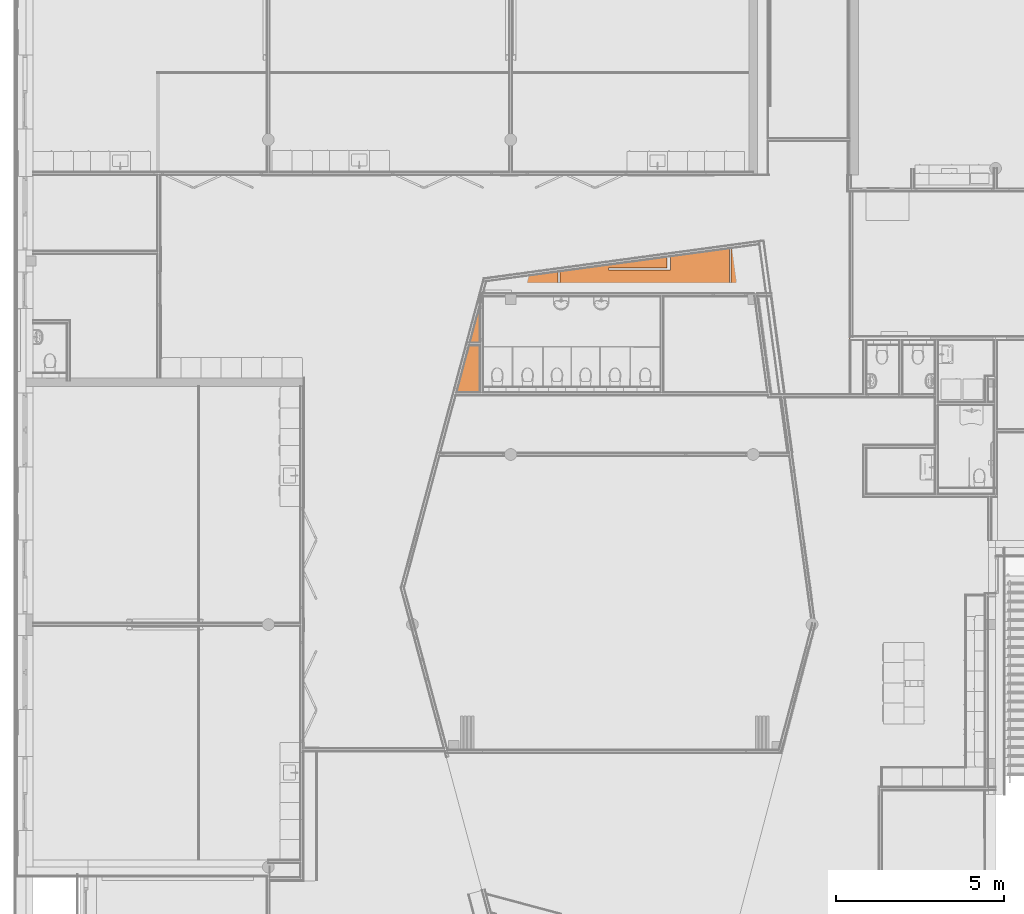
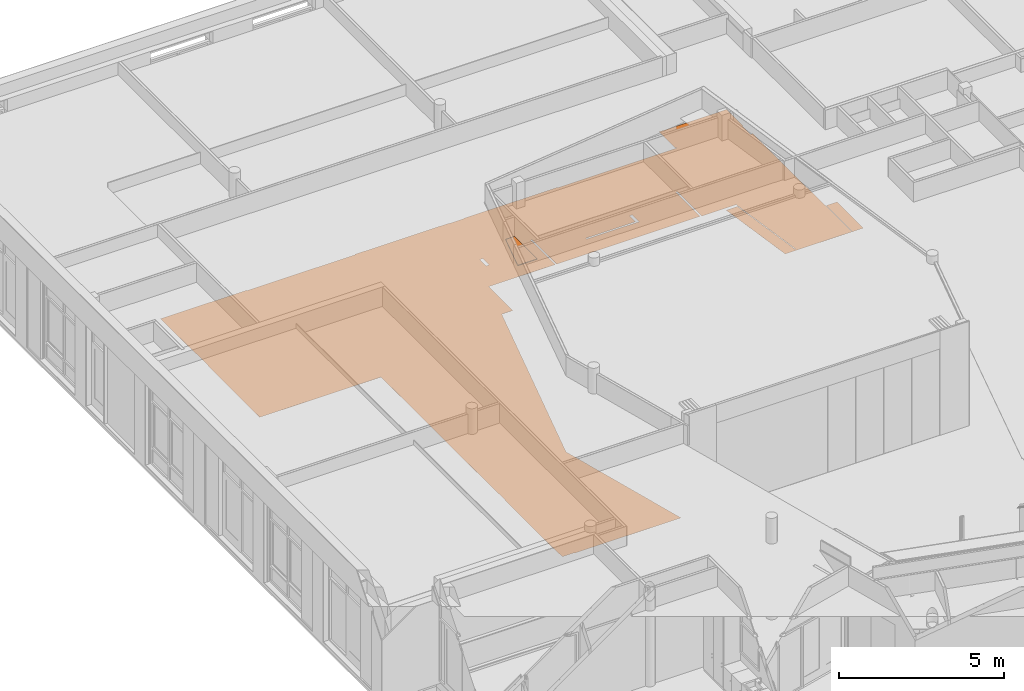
# One storey, part 131 of 167: 2 proxies.
"""IFC2X3 building model written with IfcOpenShell, lengths in millimetres."""

import ifcopenshell
import ifcopenshell.guid

model = None  # the IFC model being written
_history = None  # IfcOwnerHistory: only IFC2X3 demands one
_inside = {}  # id of a spatial element -> (the spatial element, [elements in it])
_under = {}  # id of a project, library or spatial element -> (it, [spatial elements below it])
_declared = {}  # id of a project -> (the project, [libraries it declares])
_typed = {}  # id of a type object -> (the type object, [elements of that type])
_made_of = {}  # id of a material, layer set ... -> (it, [elements and type objects made of it])


def new_model(schema):
    """Start an empty IFC model of exactly this schema.

    Asked for "IFC4X3", IfcOpenShell would pick the latest addendum, in which some entities
    have other attributes; the version numbers below select the first issue.
    IFC2X3 requires an IfcOwnerHistory on every rooted entity: one is made here for all.
    """
    global model, _history
    if schema == "IFC4X3":
        model = ifcopenshell.file(schema_version=(4, 3, 0, 0))
    else:
        model = ifcopenshell.file(schema=schema)
    _inside.clear()
    _under.clear()
    _declared.clear()
    _typed.clear()
    _made_of.clear()
    _history = None
    if model.schema == "IFC2X3":
        org = make("IfcOrganization", Name="unknown")
        user = make(
            "IfcPersonAndOrganization",
            ThePerson=make("IfcPerson", FamilyName="unknown"),
            TheOrganization=org,
        )
        app = make(
            "IfcApplication",
            ApplicationDeveloper=org,
            Version="unknown",
            ApplicationFullName="unknown",
            ApplicationIdentifier="unknown",
        )
        _history = make(
            "IfcOwnerHistory",
            OwningUser=user,
            OwningApplication=app,
            ChangeAction="ADDED",
            CreationDate=0,
        )
    return model


def make(cls, **values):
    """One entity of the class cls with the attributes given. An attribute that is None is left unset."""
    return model.create_entity(
        cls, **{name: value for name, value in values.items() if value is not None}
    )


def entity(cls, *values):
    """Any entity or typed value of the class cls, its attributes in the order of the schema. None: left unset."""
    e = model.create_entity(cls)
    for i, value in enumerate(values):
        if value is not None:
            e[i] = value
    return e


def rooted(cls, **values):
    """An entity with a GlobalId (a new one), such as an element, a storey or a relation."""
    return make(cls, GlobalId=ifcopenshell.guid.new(), OwnerHistory=_history, **values)


def si_unit(unit_type, name, prefix=None):
    """IfcSIUnit, for example si_unit("LENGTHUNIT", "METRE", prefix="MILLI")."""
    return make("IfcSIUnit", UnitType=unit_type, Prefix=prefix, Name=name)


def converted_unit(unit_type, name, factor, base, dimensions=None, offset=None):
    """IfcConversionBasedUnit, such as the inch: factor (a typed value) times the base unit."""
    return make(
        "IfcConversionBasedUnit"
        if offset is None
        else "IfcConversionBasedUnitWithOffset",
        ConversionOffset=offset,
        Dimensions=None
        if dimensions is None
        else entity("IfcDimensionalExponents", *dimensions),
        UnitType=unit_type,
        Name=name,
        ConversionFactor=make(
            "IfcMeasureWithUnit", ValueComponent=factor, UnitComponent=base
        ),
    )


def derived_unit(unit_type, elements):
    """IfcDerivedUnit: a product of units, each with its exponent."""
    return make(
        "IfcDerivedUnit",
        Elements=[
            make("IfcDerivedUnitElement", Unit=unit, Exponent=power)
            for unit, power in elements
        ],
        UnitType=unit_type,
    )


def money_unit(currency):
    """IfcMonetaryUnit."""
    return make("IfcMonetaryUnit", Currency=currency)


def assignment(units):
    """IfcUnitAssignment: the units of a project."""
    return None if units is None else make("IfcUnitAssignment", Units=units)


def point(xyz):
    """IfcCartesianPoint."""
    return None if xyz is None else make("IfcCartesianPoint", Coordinates=xyz)


def direction(xyz):
    """IfcDirection."""
    return None if xyz is None else make("IfcDirection", DirectionRatios=xyz)


def frame(location, z_axis=None, x_axis=None):
    """IfcAxis2Placement3D, a coordinate frame: its origin and axes. An axis left out is left unset."""
    return make(
        "IfcAxis2Placement3D",
        Location=point(location),
        Axis=direction(z_axis),
        RefDirection=direction(x_axis),
    )


def origin_with_axes():
    """The frame at (0, 0, 0) with the z axis (0, 0, 1) and the x axis (1, 0, 0) written out."""
    return frame((0.0, 0.0, 0.0), z_axis=(0.0, 0.0, 1.0), x_axis=(1.0, 0.0, 0.0))


def place(relative_to, where):
    """IfcLocalPlacement: puts the frame where relative to a parent placement (None: the world)."""
    return make(
        "IfcLocalPlacement", PlacementRelTo=relative_to, RelativePlacement=where
    )


def context(
    kind, dimensions, precision=None, world=None, true_north=None, identifier=None
):
    """IfcGeometricRepresentationContext, for example the 3D "Model" context."""
    return make(
        "IfcGeometricRepresentationContext",
        ContextIdentifier=identifier,
        ContextType=kind,
        CoordinateSpaceDimension=dimensions,
        Precision=precision,
        WorldCoordinateSystem=world,
        TrueNorth=true_north,
    )


def subcontext(parent, identifier, kind, view, scale=None):
    """IfcGeometricRepresentationSubContext, for example "Body" below "Model"."""
    return make(
        "IfcGeometricRepresentationSubContext",
        ContextIdentifier=identifier,
        ContextType=kind,
        ParentContext=parent,
        TargetScale=scale,
        TargetView=view,
    )


def project(units=None, contexts=None):
    """IfcProject with its units and contexts."""
    return rooted(
        "IfcProject",
        Name="project",
        RepresentationContexts=contexts,
        UnitsInContext=assignment(units),
    )


def spatial(cls, under=None, at=None, **own):
    """A site, building, storey or space (cls), placed at a placement, below another one or the project."""
    s = rooted(cls, ObjectPlacement=at, **own)
    if under is not None:
        _under.setdefault(under.id(), (under, []))[1].append(s)
    return s


def faces_of(points, faces, orient=None, outer=None):
    """IfcFace entities. A face is a list of loops; a loop is a list of indices into points, from 0.

    orient and outer hold one flag for each loop. By default every Orientation is true, the
    first loop of a face is its IfcFaceOuterBound and the others are IfcFaceBound.
    """
    made = []
    for i, loops in enumerate(faces):
        bounds = []
        for j, loop in enumerate(loops):
            is_outer = j == 0 if outer is None else outer[i][j]
            bounds.append(
                make(
                    "IfcFaceOuterBound" if is_outer else "IfcFaceBound",
                    Bound=make("IfcPolyLoop", Polygon=[points[k] for k in loop]),
                    Orientation=True if orient is None else orient[i][j],
                )
            )
        made.append(make("IfcFace", Bounds=bounds))
    return made


def faceted_brep(points, faces, orient=None, outer=None, voids=None):
    """IfcFacetedBrep: a solid bounded by flat faces; with voids (closed shells), ...WithVoids."""
    shared = [point(p) for p in points]
    hull = make("IfcClosedShell", CfsFaces=faces_of(shared, faces, orient, outer))
    if voids is None:
        return make("IfcFacetedBrep", Outer=hull)
    return make(
        "IfcFacetedBrepWithVoids",
        Outer=hull,
        Voids=[
            make(cls, CfsFaces=faces_of(shared, fs, o, b)) for cls, fs, o, b in voids
        ],
    )


def shape(context_of_items, identifier, shape_type, items):
    """IfcShapeRepresentation: the items that make up one representation, for example the "Body"."""
    return make(
        "IfcShapeRepresentation",
        ContextOfItems=context_of_items,
        RepresentationIdentifier=identifier,
        RepresentationType=shape_type,
        Items=items,
    )


def material(Name=None, Category=None):
    """IfcMaterial."""
    return make("IfcMaterial", Name=Name, Category=Category)


def made_of(thing, what):
    """Note that an element or type object is made of a material, layer set ...; save() writes the relation."""
    if what is not None:
        _made_of.setdefault(what.id(), (what, []))[1].append(thing)
    return thing


def type_object(cls, material=None, **own):
    """A type object (cls), such as IfcWallType, which elements share."""
    return made_of(rooted(cls, **own), material)


def element(
    cls,
    number,
    at=None,
    inside=None,
    cuts=None,
    type_object=None,
    material=None,
    context=None,
    identifier="Body",
    shape_type=None,
    held_by="IfcProductDefinitionShape",
    body=None,
    shapes=None,
    **own,
):
    """One element of the class cls, such as IfcWall. Its Tag is "e" and its number.

    at: its placement. inside: the storey or other place that contains it. cuts: it is an
    opening in that element (IfcRelVoidsElement). A single representation is given by context,
    identifier, shape_type and body (its items); several are given by shapes. held_by: the class
    of the entity that holds the representations. save() writes the other relations.
    """
    e = rooted(cls, Tag="e%d" % number, ObjectPlacement=at, **own)
    if body is not None:
        shapes = [shape(context, identifier, shape_type, body)]
    if shapes is not None:
        e.Representation = make(held_by, Representations=shapes)
    if inside is not None:
        _inside.setdefault(inside.id(), (inside, []))[1].append(e)
    if cuts is not None:
        rooted(
            "IfcRelVoidsElement", RelatingBuildingElement=cuts, RelatedOpeningElement=e
        )
    if type_object is not None:
        _typed.setdefault(type_object.id(), (type_object, []))[1].append(e)
    return made_of(e, material)


def aggregate(whole, parts):
    """IfcRelAggregates: a whole, such as a stair, and the parts it consists of."""
    return rooted("IfcRelAggregates", RelatingObject=whole, RelatedObjects=parts)


def save(model, path):
    """Write the relations noted so far, then the file.

    IfcRelAggregates (storeys below a building ...), IfcRelContainedInSpatialStructure (elements
    in a storey), IfcRelDefinesByType, IfcRelAssociatesMaterial and IfcRelDeclares: one each for
    every whole, place, type object, material and project.
    """
    for whole, parts in _under.values():
        aggregate(whole, parts)
    for where, things in _inside.values():
        rooted(
            "IfcRelContainedInSpatialStructure",
            RelatedElements=things,
            RelatingStructure=where,
        )
    for kind, things in _typed.values():
        rooted("IfcRelDefinesByType", RelatedObjects=things, RelatingType=kind)
    for what, things in _made_of.values():
        rooted("IfcRelAssociatesMaterial", RelatedObjects=things, RelatingMaterial=what)
    for by, libraries in _declared.values():
        rooted("IfcRelDeclares", RelatingContext=by, RelatedDefinitions=libraries)
    model.write(path)


model = new_model("IFC2X3")

# Units and contexts
model_context = context("Model", 3, precision=0.01, world=origin_with_axes(), true_north=direction((0.0, 1.0)))
plan_context = context("Plan", 3, precision=0.01, world=origin_with_axes(), true_north=direction((0.0, 1.0)))
body_context = subcontext(model_context, "Body", "Model", "MODEL_VIEW")
ifc_project = project(units=[si_unit("LENGTHUNIT", "METRE", prefix="MILLI"), si_unit("AREAUNIT", "SQUARE_METRE"), si_unit("VOLUMEUNIT", "CUBIC_METRE"), converted_unit("PLANEANGLEUNIT", "DEGREE", entity("IfcPlaneAngleMeasure", 0.0174532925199), si_unit("PLANEANGLEUNIT", "RADIAN"), dimensions=[0, 0, 0, 0, 0, 0, 0]), si_unit("SOLIDANGLEUNIT", "STERADIAN"), money_unit("EUR"), converted_unit("TIMEUNIT", "Year", entity("IfcTimeMeasure", 31556926.0), si_unit("TIMEUNIT", "SECOND"), dimensions=[0, 0, 1, 0, 0, 0, 0]), si_unit("MASSUNIT", "GRAM", prefix="KILO"), si_unit("THERMODYNAMICTEMPERATUREUNIT", "DEGREE_CELSIUS"), si_unit("LUMINOUSINTENSITYUNIT", "LUMEN"), si_unit("ENERGYUNIT", "JOULE", prefix="MEGA"), derived_unit("THERMALCONDUCTANCEUNIT", [(si_unit("POWERUNIT", "WATT"), 1), (si_unit("LENGTHUNIT", "METRE"), -1), (si_unit("THERMODYNAMICTEMPERATUREUNIT", "KELVIN"), -1)]), derived_unit("SPECIFICHEATCAPACITYUNIT", [(si_unit("ENERGYUNIT", "JOULE"), 1), (si_unit("MASSUNIT", "GRAM", prefix="KILO"), -1), (si_unit("THERMODYNAMICTEMPERATUREUNIT", "KELVIN"), -1)]), derived_unit("MASSDENSITYUNIT", [(si_unit("MASSUNIT", "GRAM", prefix="KILO"), 1), (si_unit("VOLUMEUNIT", "CUBIC_METRE"), -1)])], contexts=[model_context, plan_context])

# Site, building, storey
site_placement = place(None, origin_with_axes())
site = spatial("IfcSite", under=ifc_project, at=site_placement, Name="Site", CompositionType="ELEMENT")
building_placement = place(site_placement, origin_with_axes())
building = spatial("IfcBuilding", under=site, at=building_placement, Name="Naam gebouw", CompositionType="ELEMENT")
storey_placement = place(building_placement, origin_with_axes())
storey = spatial("IfcBuildingStorey", under=building, at=storey_placement, Name="Begane grond", CompositionType="ELEMENT", Elevation=0.0)

# Proxies
ifc_material_1 = material(Name="ALG - BINNENAFWERKING")
building_element_proxy_type_1 = type_object("IfcBuildingElementProxyType", Name="ALG - BINNENAFWERKING 10", PredefinedType="NOTDEFINED")
proxy_1_placement = place(storey_placement, frame((13480.0673236, 37076.6966009, 2800.0), z_axis=(0.0, 0.0, 1.0), x_axis=(1.0, 0.0, 0.0)))
element("IfcBuildingElementProxy", 1, at=proxy_1_placement, inside=storey, type_object=building_element_proxy_type_1, material=ifc_material_1, Name="23__Vloer-x", context=body_context, shape_type="Brep", body=[
    faceted_brep([(0.0, 0.0, 10.0), (0.0, 0.0, 0.0), (-315.147021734, 0.0, 0.0), (-315.147021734, 0.0, 10.0), (0.0, -1375.0, 10.0), (0.0, -1375.0, 0.0), (-683.577161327, -1375.0, 0.0), (-683.577161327, -1375.0, 10.0)], [[[0, 1, 2, 3]], [[4, 5, 1, 0]], [[2, 1, 5, 6]], [[3, 2, 6, 7]], [[4, 0, 3, 7]], [[7, 6, 5, 4]]]),
])
ifc_material_2 = material(Name="_TenW_43_Marmoleum Salsa Verde")
building_element_proxy_type_2 = type_object("IfcBuildingElementProxyType", Name="_TenW_43_Marmoleum Salsa Verde 2", PredefinedType="NOTDEFINED")
proxy_2_placement = place(storey_placement, frame((22049.0, 43150.0, 0.0), z_axis=(0.0, 0.0, 1.0), x_axis=(1.0, 0.0, 0.0)))
element("IfcBuildingElementProxy", 2, at=proxy_2_placement, inside=storey, type_object=building_element_proxy_type_2, material=ifc_material_2, Name="23__Vloer-x", context=body_context, shape_type="Brep", body=[
    faceted_brep([(-324.0, -989.03356242, 0.0), (-449.0, -989.39243826, 0.0), (-449.0, -988.135032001, 0.0), (-324.0, -988.050763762, 0.0), (-449.0, -989.39243826, 2.0), (-324.0, -989.03356242, 2.0), (-449.0, -988.135032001, 2.0), (-324.0, -988.050763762, 2.0)], [[[0, 1, 2, 3]], [[4, 1, 0, 5]], [[6, 2, 1, 4]], [[3, 2, 6, 7]], [[5, 0, 3, 7]], [[7, 6, 4, 5]]]),
    faceted_brep([(-13357.0988551, -18008.4542428, 2.0), (-13357.0988551, -18008.4542428, 0.0), (-13357.0988551, -18028.4542428, 0.0), (-13357.0988551, -18028.4542428, 2.0), (-13779.0, -18008.4542428, 2.0), (-13779.0, -18008.4542428, 0.0), (-13799.0, -17846.0, 0.0), (-13799.0, -14546.0, 0.0), (-13779.0, -14546.0, 0.0), (-13779.0, -14175.0, 0.0), (-13799.0, -14175.0, 0.0), (-13799.0, -7025.0, 0.0), (-18049.0, -7025.0, 0.0), (-18049.0, -3850.0, 0.0), (-18029.0, -3850.0, 0.0), (-18029.0, -3150.0, 0.0), (-18049.0, -3150.0, 0.0), (-18049.0, -1000.0, 0.0), (-15024.0, -1000.0, 0.0), (-15024.0, -1020.0, 0.0), (-11234.0, -1020.0, 0.0), (-11234.0, -1000.0, 0.0), (-7934.0, -1000.0, 0.0), (-7934.0, -1020.0, 0.0), (-7443.7185314, -1020.0, 0.0), (-7443.7185314, -1000.0, 0.0), (-4143.7185314, -1000.0, 0.0), (-4143.6611115, -1019.99991757, 0.0), (36.0574198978, -1007.99991757, 0.0), (36.0, -988.0, 0.0), (-248.699147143, -988.0, 0.0), (0.0, -987.832340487, 0.0), (0.0, 0.0, 0.0), (2366.00000919, 0.0, 0.0), (2366.00000919, -1010.1483593, 0.0), (2346.00000919, -1010.1483593, 0.0), (2346.00000919, -1500.0, 0.0), (2366.00000919, -1500.0, 0.0), (2416.00000919, -1500.0, 0.0), (2416.00000919, -5812.5, 0.0), (2425.80118799, -5812.5, 0.0), (2426.00005248, -5900.0, 0.0), (2426.00035744, -5912.5, 0.0), (2826.0000137, -5912.5, 0.0), (2826.0000137, -7513.6468596, 0.0), (83.1931257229, -7513.64691519, 0.0), (-309.965794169, -4610.78837165, 0.0), (88.0720538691, -4610.78837165, 0.0), (471.639209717, -7442.8268656, 0.0), (491.458259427, -7440.14260246, 0.0), (108.254656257, -4610.78837165, 0.0), (109.067802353, -4610.78837165, 0.0), (109.067802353, -4510.78837165, 0.0), (-1102.23724938, -4510.78837165, 0.0), (-1102.23724938, -4498.24821173, 0.0), (-1102.23724938, -3024.88025142, 0.0), (-1152.23724938, -3024.88025142, 0.0), (-1152.23724938, -4498.35846503, 0.0), (-4742.23809707, -4506.27465379, 0.0), (-4742.22814402, -4510.78837165, 0.0), (-6192.01278421, -4510.78837165, 0.0), (-6192.01278421, -3024.88025142, 0.0), (-6242.01278421, -3024.88025142, 0.0), (-6242.01278421, -4510.78837165, 0.0), (-8568.93267643, -4510.78837165, 0.0), (-8568.93267643, -4523.28837165, 0.0), (-8568.93267643, -5973.30339913, 0.0), (-8960.81239696, -5973.30339913, 0.0), (-8962.48495857, -5979.54588539, 0.0), (-10906.7739884, -13235.7309293, 0.0), (-10913.2444647, -13259.8790743, 0.0), (-9635.50859924, -18028.4542428, 0.0), (-13779.0, -17846.0, 0.0), (2446.00005248, -7493.6468596, 0.0), (2446.00005248, -5920.0, 0.0), (2426.00005248, -5920.0, 0.0), (2426.00005248, -7493.6468596, 0.0), (-4742.23728012, -3765.61271113, 0.0), (-4742.23728012, -3815.61271113, 0.0), (-3001.29704225, -3815.61271113, 0.0), (-2901.29704225, -3815.61271113, 0.0), (-2901.29704225, -3406.50062118, 0.0), (-3001.29704225, -3406.50062118, 0.0), (-3001.29704225, -3765.61271113, 0.0), (-7991.07257708, -3135.3542032, 0.0), (-8091.07257708, -3135.3542032, 0.0), (-8091.07257708, -3519.46629315, 0.0), (-7991.07257708, -3519.46629315, 0.0), (-9635.50859924, -18028.4542428, 2.0), (-13799.0, -14546.0, 2.0), (-13799.0, -17846.0, 2.0), (-13779.0, -17846.0, 2.0), (-10913.2444647, -13259.8790743, 2.0), (-10906.7739884, -13235.7309293, 2.0), (-8962.48495857, -5979.54588539, 2.0), (-8960.81239696, -5973.30339913, 2.0), (-8568.93267643, -5973.30339913, 2.0), (-8568.93267643, -4523.28837165, 2.0), (-8568.93267643, -4510.78837165, 2.0), (-6242.01278421, -4510.78837165, 2.0), (-6242.01278421, -3024.88025142, 2.0), (-6192.01278421, -3024.88025142, 2.0), (-6192.01278421, -4510.78837165, 2.0), (-4742.22814402, -4510.78837165, 2.0), (-4742.23809707, -4506.27465379, 2.0), (-1152.23724938, -4498.35846503, 2.0), (-1152.23724938, -3024.88025142, 2.0), (-1102.23724938, -3024.88025142, 2.0), (-1102.23724938, -4498.24821173, 2.0), (-1102.23724938, -4510.78837165, 2.0), (109.067802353, -4510.78837165, 2.0), (109.067802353, -4610.78837165, 2.0), (108.254656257, -4610.78837165, 2.0), (491.458259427, -7440.14260246, 2.0), (471.639209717, -7442.8268656, 2.0), (88.0720538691, -4610.78837165, 2.0), (-309.965794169, -4610.78837165, 2.0), (83.1931257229, -7513.64691519, 2.0), (2826.0000137, -7513.6468596, 2.0), (2826.0000137, -5912.5, 2.0), (2426.00035744, -5912.5, 2.0), (2426.00005248, -5900.0, 2.0), (2425.80118799, -5812.5, 2.0), (2416.00000919, -5812.5, 2.0), (2416.00000919, -1500.0, 2.0), (2366.00000919, -1500.0, 2.0), (2346.00000919, -1500.0, 2.0), (2346.00000919, -1010.1483593, 2.0), (2366.00000919, -1010.1483593, 2.0), (2366.00000919, 0.0, 2.0), (0.0, 0.0, 2.0), (0.0, -987.832340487, 2.0), (-248.699147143, -988.0, 2.0), (36.0, -988.0, 2.0), (36.0574198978, -1007.99991757, 2.0), (-4143.6611115, -1019.99991757, 2.0), (-4143.7185314, -1000.0, 2.0), (-7443.7185314, -1000.0, 2.0), (-7443.7185314, -1020.0, 2.0), (-7934.0, -1020.0, 2.0), (-7934.0, -1000.0, 2.0), (-11234.0, -1000.0, 2.0), (-11234.0, -1020.0, 2.0), (-15024.0, -1020.0, 2.0), (-15024.0, -1000.0, 2.0), (-18049.0, -1000.0, 2.0), (-18049.0, -3150.0, 2.0), (-18029.0, -3150.0, 2.0), (-18029.0, -3850.0, 2.0), (-18049.0, -3850.0, 2.0), (-18049.0, -7025.0, 2.0), (-13799.0, -7025.0, 2.0), (-13799.0, -14175.0, 2.0), (-13779.0, -14175.0, 2.0), (-13779.0, -14546.0, 2.0), (2446.00005248, -7493.6468596, 2.0), (2426.00005248, -7493.6468596, 2.0), (2426.00005248, -5920.0, 2.0), (2446.00005248, -5920.0, 2.0), (-2901.29704225, -3815.61271113, 2.0), (-3001.29704225, -3815.61271113, 2.0), (-4742.23728012, -3815.61271113, 2.0), (-4742.23728012, -3765.61271113, 2.0), (-3001.29704225, -3765.61271113, 2.0), (-3001.29704225, -3406.50062118, 2.0), (-2901.29704225, -3406.50062118, 2.0), (-7991.07257708, -3135.3542032, 2.0), (-7991.07257708, -3519.46629315, 2.0), (-8091.07257708, -3519.46629315, 2.0), (-8091.07257708, -3135.3542032, 2.0)], [[[0, 1, 2, 3]], [[4, 5, 1, 0]], [[6, 7, 8, 9, 10, 11, 12, 13, 14, 15, 16, 17, 18, 19, 20, 21, 22, 23, 24, 25, 26, 27, 28, 29, 30, 31, 32, 33, 34, 35, 36, 37, 38, 39, 40, 41, 42, 43, 44, 45, 46, 47, 48, 49, 50, 51, 52, 53, 54, 55, 56, 57, 58, 59, 60, 61, 62, 63, 64, 65, 66, 67, 68, 69, 70, 71, 2, 1, 5, 72], [73, 74, 75, 76], [77, 78, 79, 80, 81, 82, 83], [84, 85, 86, 87]], [[88, 3, 2, 71]], [[89, 90, 91, 4, 0, 3, 88, 92, 93, 94, 95, 96, 97, 98, 99, 100, 101, 102, 103, 104, 105, 106, 107, 108, 109, 110, 111, 112, 113, 114, 115, 116, 117, 118, 119, 120, 121, 122, 123, 124, 125, 126, 127, 128, 129, 130, 131, 132, 133, 134, 135, 136, 137, 138, 139, 140, 141, 142, 143, 144, 145, 146, 147, 148, 149, 150, 151, 152, 153, 154], [155, 156, 157, 158], [159, 160, 161, 162, 163, 164, 165], [166, 167, 168, 169]], [[4, 91, 72, 5]], [[7, 6, 90, 89]], [[154, 8, 7, 89]], [[153, 9, 8, 154]], [[152, 10, 9, 153]], [[151, 11, 10, 152]], [[150, 12, 11, 151]], [[149, 13, 12, 150]], [[148, 14, 13, 149]], [[147, 15, 14, 148]], [[146, 16, 15, 147]], [[17, 16, 146, 145]], [[144, 18, 17, 145]], [[143, 19, 18, 144]], [[20, 19, 143, 142]], [[141, 21, 20, 142]], [[140, 22, 21, 141]], [[140, 139, 23, 22]], [[138, 24, 23, 139]], [[25, 24, 138, 137]], [[136, 26, 25, 137]], [[136, 135, 27, 26]], [[28, 27, 135, 134]], [[133, 29, 28, 134]], [[132, 30, 29, 133]], [[131, 31, 30, 132]], [[130, 32, 31, 131]], [[129, 33, 32, 130]], [[129, 128, 34, 33]], [[127, 35, 34, 128]], [[126, 36, 35, 127]], [[125, 37, 36, 126]], [[124, 38, 37, 125]], [[123, 39, 38, 124]], [[122, 40, 39, 123]], [[121, 41, 40, 122]], [[120, 42, 41, 121]], [[119, 43, 42, 120]], [[118, 44, 43, 119]], [[117, 45, 44, 118]], [[46, 45, 117, 116]], [[115, 47, 46, 116]], [[115, 114, 48, 47]], [[113, 49, 48, 114]], [[50, 49, 113, 112]], [[111, 51, 50, 112]], [[110, 52, 51, 111]], [[110, 109, 53, 52]], [[108, 54, 53, 109]], [[55, 54, 108, 107]], [[106, 56, 55, 107]], [[106, 105, 57, 56]], [[104, 58, 57, 105]], [[103, 59, 58, 104]], [[102, 60, 59, 103]], [[61, 60, 102, 101]], [[100, 62, 61, 101]], [[100, 99, 63, 62]], [[98, 64, 63, 99]], [[97, 65, 64, 98]], [[96, 66, 65, 97]], [[95, 67, 66, 96]], [[94, 68, 67, 95]], [[93, 69, 68, 94]], [[92, 70, 69, 93]], [[88, 71, 70, 92]], [[90, 6, 72, 91]], [[158, 74, 73, 155]], [[157, 75, 74, 158]], [[156, 76, 75, 157]], [[155, 73, 76, 156]], [[162, 161, 78, 77]], [[160, 79, 78, 161]], [[159, 80, 79, 160]], [[81, 80, 159, 165]], [[164, 82, 81, 165]], [[163, 83, 82, 164]], [[162, 77, 83, 163]], [[169, 85, 84, 166]], [[168, 86, 85, 169]], [[167, 87, 86, 168]], [[84, 87, 167, 166]]]),
])

save(model, "model.ifc")
